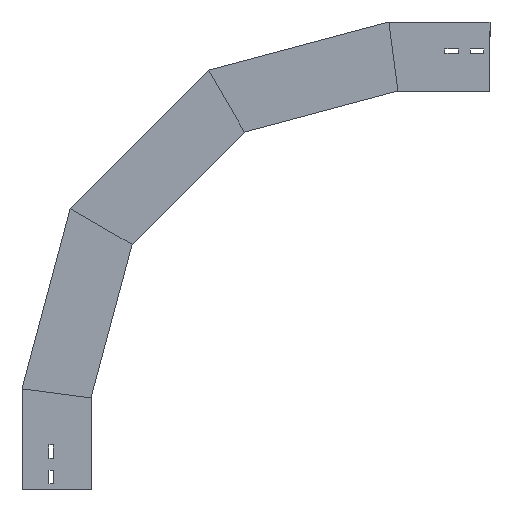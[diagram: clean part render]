
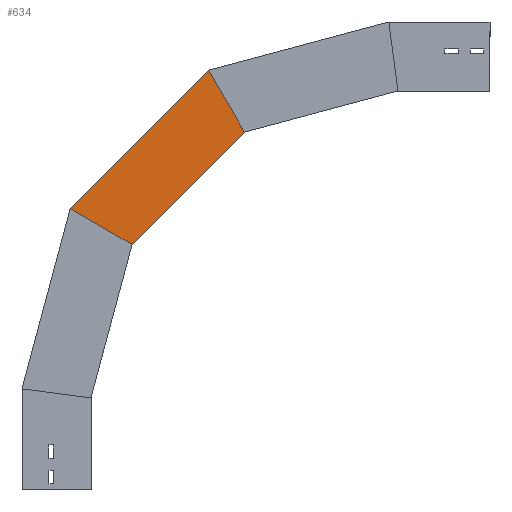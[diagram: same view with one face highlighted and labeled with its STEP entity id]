
A CAD part, left-side view. The second image highlights one B-rep face of the part: STEP entity #634.
In plain terms, the highlighted planar face has unit normal (-1, 0, 0) as drawn and (1, 0, 0) by its records, which use the part's own axes.
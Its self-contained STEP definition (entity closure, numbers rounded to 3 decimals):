
#7 = VECTOR ( 'NONE', #371, 1000. ) ;
#14 = DIRECTION ( 'NONE',  ( 0., -0.866, -0.5 ) ) ;
#251 = CARTESIAN_POINT ( 'NONE',  ( 0., 36.033, 456.207 ) ) ;
#272 = VECTOR ( 'NONE', #1370, 1000. ) ;
#336 = VERTEX_POINT ( 'NONE', #1673 ) ;
#353 = DIRECTION ( 'NONE',  ( 1., 0., 0. ) ) ;
#371 = DIRECTION ( 'NONE',  ( 0., -0.707, 0.707 ) ) ;
#394 = AXIS2_PLACEMENT_3D ( 'NONE', #1079, #353, #509 ) ;
#440 = ORIENTED_EDGE ( 'NONE', *, *, #884, .T. ) ;
#452 = LINE ( 'NONE', #1040, #1305 ) ;
#477 = VERTEX_POINT ( 'NONE', #593 ) ;
#498 = PLANE ( 'NONE',  #394 ) ;
#509 = DIRECTION ( 'NONE',  ( 0., 0., -1. ) ) ;
#521 = EDGE_LOOP ( 'NONE', ( #1780, #440, #1390, #1874 ) ) ;
#527 = LINE ( 'NONE', #251, #7 ) ;
#593 = CARTESIAN_POINT ( 'NONE',  ( 0., -250.175, 583.315 ) ) ;
#634 = ADVANCED_FACE ( 'NONE', ( #1220 ), #498, .T. ) ;
#737 = CARTESIAN_POINT ( 'NONE',  ( 0., -128.762, 364.536 ) ) ;
#789 = LINE ( 'NONE', #1536, #272 ) ;
#796 = VERTEX_POINT ( 'NONE', #1878 ) ;
#884 = EDGE_CURVE ( 'NONE', #796, #477, #452, .T. ) ;
#1007 = EDGE_CURVE ( 'NONE', #336, #477, #789, .T. ) ;
#1024 = LINE ( 'NONE', #737, #1789 ) ;
#1040 = CARTESIAN_POINT ( 'NONE',  ( 0., -287.996, 517.807 ) ) ;
#1079 = CARTESIAN_POINT ( 'NONE',  ( 0., -43.517, 376.657 ) ) ;
#1220 = FACE_OUTER_BOUND ( 'NONE', #521, .T. ) ;
#1305 = VECTOR ( 'NONE', #1606, 1000. ) ;
#1370 = DIRECTION ( 'NONE',  ( 0., -0.707, 0.707 ) ) ;
#1382 = EDGE_CURVE ( 'NONE', #1583, #796, #527, .T. ) ;
#1390 = ORIENTED_EDGE ( 'NONE', *, *, #1007, .F. ) ;
#1536 = CARTESIAN_POINT ( 'NONE',  ( 0., -43.517, 376.657 ) ) ;
#1583 = VERTEX_POINT ( 'NONE', #1858 ) ;
#1606 = DIRECTION ( 'NONE',  ( 0., -0.5, -0.866 ) ) ;
#1673 = CARTESIAN_POINT ( 'NONE',  ( 0., -67.034, 400.175 ) ) ;
#1710 = EDGE_CURVE ( 'NONE', #1583, #336, #1024, .T. ) ;
#1780 = ORIENTED_EDGE ( 'NONE', *, *, #1382, .T. ) ;
#1789 = VECTOR ( 'NONE', #14, 1000. ) ;
#1858 = CARTESIAN_POINT ( 'NONE',  ( 0., 33.831, 458.409 ) ) ;
#1874 = ORIENTED_EDGE ( 'NONE', *, *, #1710, .F. ) ;
#1878 = CARTESIAN_POINT ( 'NONE',  ( 0., -191.941, 684.18 ) ) ;
